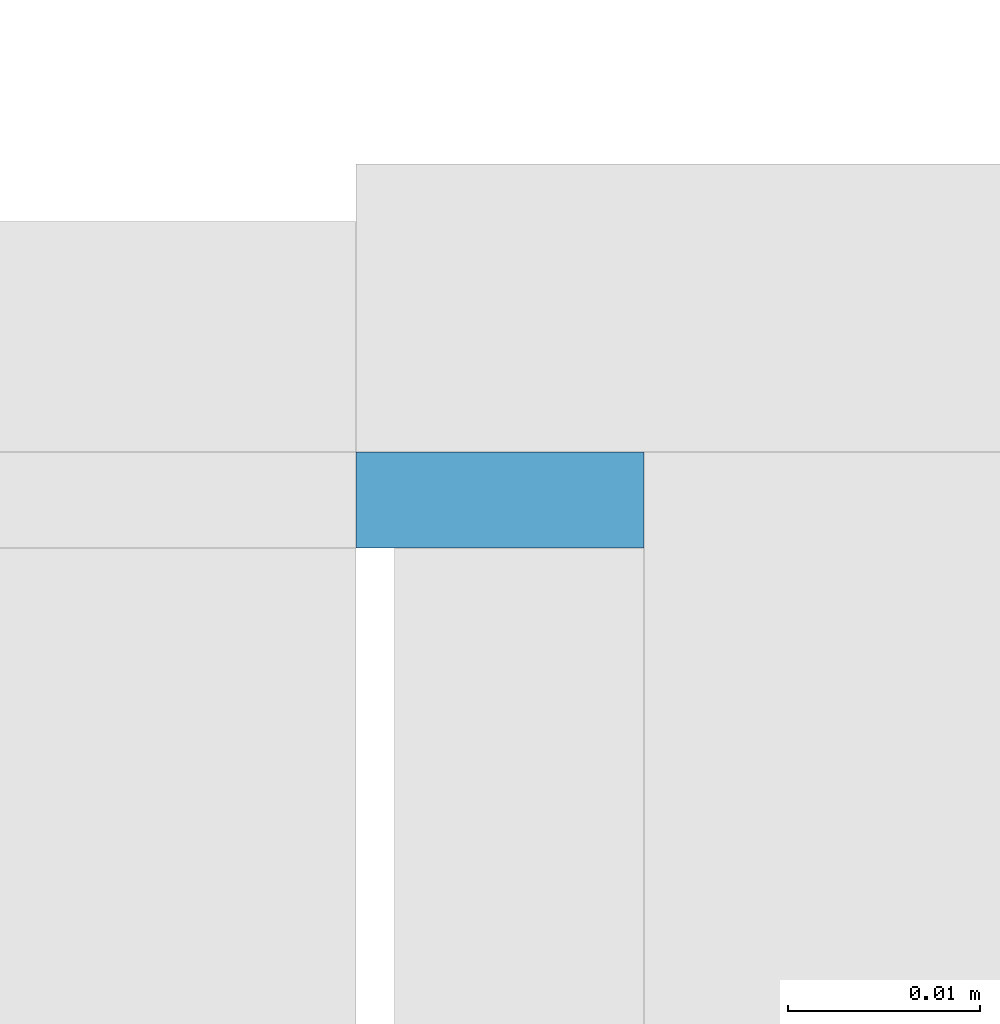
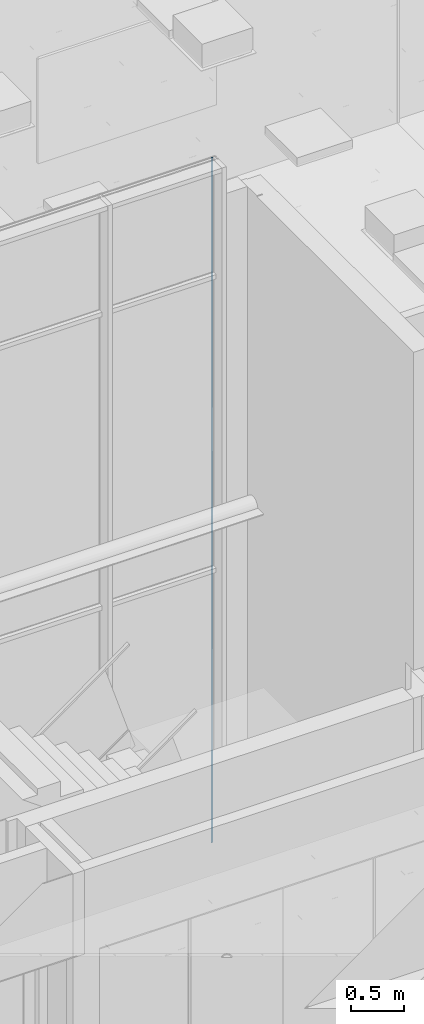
# One storey, part 110 of 347: 1 building element part, 1 element without a shape of its own.
"""IFC2X3 building model written with IfcOpenShell, lengths in millimetres."""

from ifc_helpers import new_model, entity, si_unit, converted_unit, derived_unit, money_unit, direction, frame, origin_with_axes, place, context, subcontext, project, spatial, faceted_brep, material, type_object, element, aggregate, save


model = new_model("IFC2X3")

# Units and contexts
model_context = context("Model", 3, precision=0.01, world=origin_with_axes(), true_north=direction((0.0, 1.0)))
plan_context = context("Plan", 3, precision=0.01, world=origin_with_axes(), true_north=direction((0.0, 1.0)))
body_context = subcontext(model_context, "Body", "Model", "MODEL_VIEW")
ifc_project = project(units=[si_unit("LENGTHUNIT", "METRE", prefix="MILLI"), si_unit("AREAUNIT", "SQUARE_METRE"), si_unit("VOLUMEUNIT", "CUBIC_METRE"), converted_unit("PLANEANGLEUNIT", "DEGREE", entity("IfcPlaneAngleMeasure", 0.0174532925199), si_unit("PLANEANGLEUNIT", "RADIAN"), dimensions=[0, 0, 0, 0, 0, 0, 0]), money_unit("EUR"), converted_unit("TIMEUNIT", "Year", entity("IfcTimeMeasure", 31556926.0), si_unit("TIMEUNIT", "SECOND"), dimensions=[0, 0, 1, 0, 0, 0, 0]), si_unit("MASSUNIT", "GRAM", prefix="KILO"), si_unit("THERMODYNAMICTEMPERATUREUNIT", "DEGREE_CELSIUS"), si_unit("LUMINOUSINTENSITYUNIT", "LUMEN"), si_unit("ENERGYUNIT", "JOULE", prefix="MEGA"), derived_unit("THERMALCONDUCTANCEUNIT", [(si_unit("POWERUNIT", "WATT"), 1), (si_unit("LENGTHUNIT", "METRE"), -1), (si_unit("THERMODYNAMICTEMPERATUREUNIT", "KELVIN"), -1)]), derived_unit("SPECIFICHEATCAPACITYUNIT", [(si_unit("ENERGYUNIT", "JOULE"), 1), (si_unit("MASSUNIT", "GRAM", prefix="KILO"), -1), (si_unit("THERMODYNAMICTEMPERATUREUNIT", "KELVIN"), -1)]), derived_unit("MASSDENSITYUNIT", [(si_unit("MASSUNIT", "GRAM", prefix="KILO"), 1), (si_unit("VOLUMEUNIT", "CUBIC_METRE"), -1)])], contexts=[model_context, plan_context])

# Site, building, storey
site_placement = place(None, origin_with_axes())
site = spatial("IfcSite", under=ifc_project, at=site_placement, Name="Site", CompositionType="ELEMENT")
building_placement = place(site_placement, origin_with_axes())
building = spatial("IfcBuilding", under=site, at=building_placement, Name="Naam gebouw", CompositionType="ELEMENT")
storey_placement = place(building_placement, origin_with_axes())
storey = spatial("IfcBuildingStorey", under=building, at=storey_placement, Name="begane grond", CompositionType="ELEMENT", Elevation=0.0)

# Column, building element part
column_type = type_object("IfcColumnType", Name="31 vliesgevelstijl 50 x 215", PredefinedType="COLUMN")
column_placement = place(storey_placement, frame((23809.9999999, 18400.0, 0.0), z_axis=(0.0, 0.0, 1.0), x_axis=(1.0, 0.0, 0.0)))
column = element("IfcColumn", 1, at=column_placement, inside=storey, type_object=column_type, Name="28_kolom ø 275mm", ObjectType="COLUMN")
ifc_material = material(Name="Membraan - rubber")
building_element_part_placement = place(column_placement, origin_with_axes())
building_element_part = element("IfcBuildingElementPart", 2, at=building_element_part_placement, material=ifc_material, Name="Membraan - rubber", context=body_context, shape_type="Brep", body=[
    faceted_brep([(-22.9999999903, 195.000000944, 7840.0), (-25.0, 195.000000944, 7840.0), (-25.0, 195.000000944, 0.0), (-22.9999999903, 195.000000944, 0.0), (-9.99999992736, 200.000000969, 7840.0), (-25.0, 200.000000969, 7840.0), (-9.99999992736, 195.000000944, 7840.0), (-25.0, 200.000000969, 0.0), (-9.99999992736, 195.000000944, 0.0), (-9.99999992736, 200.000000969, 0.0)], [[[0, 1, 2, 3]], [[4, 5, 1, 0, 6]], [[1, 5, 7, 2]], [[8, 3, 2, 7, 9]], [[6, 0, 3, 8]], [[5, 4, 9, 7]], [[4, 6, 8, 9]]]),
])
aggregate(column, [building_element_part])

save(model, "model.ifc")
